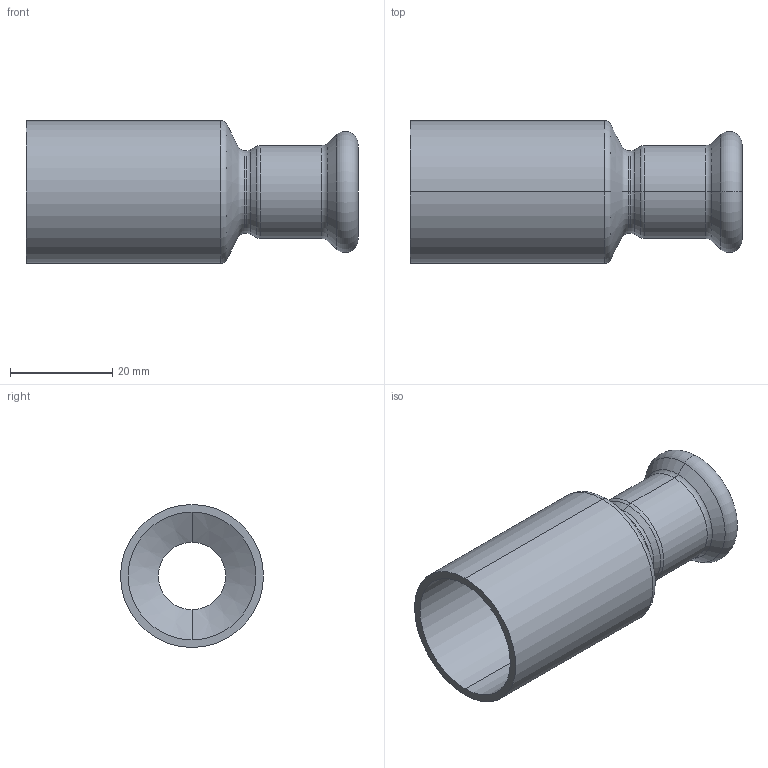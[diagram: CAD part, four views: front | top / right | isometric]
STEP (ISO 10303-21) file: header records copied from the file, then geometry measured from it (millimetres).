
FILE_DESCRIPTION (( 'STEP AP214' ), '1' );
FILE_NAME ('R28150B.STEP', '2025-08-18T00:18:08', ( '' ), ( '' ), 'SwSTEP 2.0', 'SolidWorks 2020', '' );
FILE_SCHEMA (( 'AUTOMOTIVE_DESIGN' ));
Length unit declared in the file: millimetre
Products named in the file (1): R28150B
Bounding box: 65 x 28 x 28 mm (x, y, z)
Volume: 7795.9 mm3; surface area: 10402.7 mm2
Topology: 1 solids, 1 shells, 45 faces, 90 edges, 48 vertices
Faces by surface type: torus 16, cylinder 14, cone 12, plane 3
Entity records: 1242 total; most frequent: DIRECTION 246, CARTESIAN_POINT 184, ORIENTED_EDGE 180, AXIS2_PLACEMENT_3D 110, EDGE_CURVE 90, CIRCLE 64, VERTEX_POINT 48, EDGE_LOOP 48
